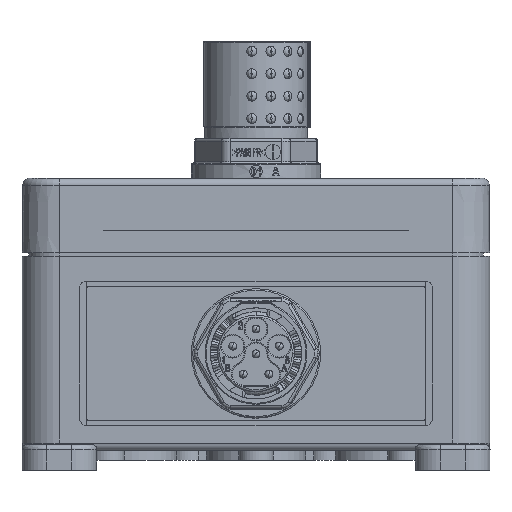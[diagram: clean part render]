
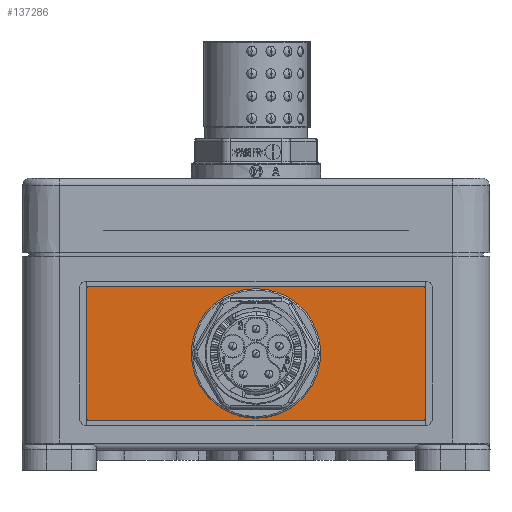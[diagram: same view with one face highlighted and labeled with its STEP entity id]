
A CAD part, front view. The second image highlights one B-rep face of the part: STEP entity #137286.
In plain terms, the highlighted planar face has unit normal (0, -1, 0).
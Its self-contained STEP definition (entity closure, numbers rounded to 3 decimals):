
#898 = EDGE_LOOP ( 'NONE', ( #31750, #93247, #28252, #119586, #124099, #131153, #49597, #32504 ) ) ;
#1482 = AXIS2_PLACEMENT_3D ( 'NONE', #101926, #105520, #165240 ) ;
#2060 = EDGE_CURVE ( 'NONE', #116039, #29001, #157896, .T. ) ;
#4006 = CARTESIAN_POINT ( 'NONE',  ( 33.5, -90., 8. ) ) ;
#8067 = CIRCLE ( 'NONE', #61209, 0.5 ) ;
#8109 = VERTEX_POINT ( 'NONE', #169908 ) ;
#13089 = VERTEX_POINT ( 'NONE', #4006 ) ;
#14322 = DIRECTION ( 'NONE',  ( 0., 1., 0. ) ) ;
#16944 = DIRECTION ( 'NONE',  ( 0., 1., 0. ) ) ;
#17930 = AXIS2_PLACEMENT_3D ( 'NONE', #161107, #117995, #177693 ) ;
#18874 = CARTESIAN_POINT ( 'NONE',  ( 33.5, -90., 34.5 ) ) ;
#23861 = VERTEX_POINT ( 'NONE', #59536 ) ;
#26523 = VERTEX_POINT ( 'NONE', #60774 ) ;
#28252 = ORIENTED_EDGE ( 'NONE', *, *, #166273, .F. ) ;
#29001 = VERTEX_POINT ( 'NONE', #106247 ) ;
#30203 = FACE_OUTER_BOUND ( 'NONE', #898, .T. ) ;
#31750 = ORIENTED_EDGE ( 'NONE', *, *, #73078, .F. ) ;
#32504 = ORIENTED_EDGE ( 'NONE', *, *, #113746, .F. ) ;
#32585 = DIRECTION ( 'NONE',  ( 1., 0., 0. ) ) ;
#43138 = VERTEX_POINT ( 'NONE', #61627 ) ;
#47320 = DIRECTION ( 'NONE',  ( 0., 1., 0. ) ) ;
#48547 = LINE ( 'NONE', #108202, #136846 ) ;
#49597 = ORIENTED_EDGE ( 'NONE', *, *, #117714, .F. ) ;
#51637 = VECTOR ( 'NONE', #57565, 1000. ) ;
#57565 = DIRECTION ( 'NONE',  ( -1., 0., 0. ) ) ;
#59536 = CARTESIAN_POINT ( 'NONE',  ( 33.5, -90., 35. ) ) ;
#60578 = DIRECTION ( 'NONE',  ( 0., 0., -1. ) ) ;
#60774 = CARTESIAN_POINT ( 'NONE',  ( -33.5, -90., 8. ) ) ;
#61209 = AXIS2_PLACEMENT_3D ( 'NONE', #18874, #16944, #122680 ) ;
#61362 = CARTESIAN_POINT ( 'NONE',  ( 0., -90., 21.5 ) ) ;
#61627 = CARTESIAN_POINT ( 'NONE',  ( -33.5, -90., 35. ) ) ;
#63195 = DIRECTION ( 'NONE',  ( 1., 0., 0. ) ) ;
#63416 = ORIENTED_EDGE ( 'NONE', *, *, #109944, .T. ) ;
#70265 = EDGE_CURVE ( 'NONE', #43138, #23861, #76887, .T. ) ;
#70826 = DIRECTION ( 'NONE',  ( 0., 1., 0. ) ) ;
#71025 = VERTEX_POINT ( 'NONE', #142426 ) ;
#72335 = DIRECTION ( 'NONE',  ( 0., -1., 0. ) ) ;
#72796 = CIRCLE ( 'NONE', #147868, 0.5 ) ;
#73078 = EDGE_CURVE ( 'NONE', #26523, #74999, #179890, .T. ) ;
#74999 = VERTEX_POINT ( 'NONE', #116396 ) ;
#76139 = CIRCLE ( 'NONE', #132291, 13. ) ;
#76887 = LINE ( 'NONE', #120945, #158631 ) ;
#90663 = DIRECTION ( 'NONE',  ( 0., 0., -1. ) ) ;
#93247 = ORIENTED_EDGE ( 'NONE', *, *, #171619, .F. ) ;
#93490 = DIRECTION ( 'NONE',  ( 0., 0., -1. ) ) ;
#98580 = AXIS2_PLACEMENT_3D ( 'NONE', #150061, #47320, #32585 ) ;
#101926 = CARTESIAN_POINT ( 'NONE',  ( 0., -90., 21.5 ) ) ;
#101950 = VECTOR ( 'NONE', #181701, 1000. ) ;
#104429 = CARTESIAN_POINT ( 'NONE',  ( 33.5, -90., 8. ) ) ;
#105520 = DIRECTION ( 'NONE',  ( 0., 1., 0. ) ) ;
#106247 = CARTESIAN_POINT ( 'NONE',  ( 13., -90., 21.5 ) ) ;
#108202 = CARTESIAN_POINT ( 'NONE',  ( 34., -90., 34.5 ) ) ;
#109944 = EDGE_CURVE ( 'NONE', #29001, #116039, #76139, .T. ) ;
#110870 = EDGE_LOOP ( 'NONE', ( #129105, #63416 ) ) ;
#112615 = EDGE_CURVE ( 'NONE', #23861, #71025, #8067, .T. ) ;
#113746 = EDGE_CURVE ( 'NONE', #74999, #154521, #133753, .T. ) ;
#116039 = VERTEX_POINT ( 'NONE', #121887 ) ;
#116396 = CARTESIAN_POINT ( 'NONE',  ( -34., -90., 8.5 ) ) ;
#117714 = EDGE_CURVE ( 'NONE', #154521, #43138, #130752, .T. ) ;
#117995 = DIRECTION ( 'NONE',  ( 0., 1., 0. ) ) ;
#118320 = CARTESIAN_POINT ( 'NONE',  ( -47., -90., 0. ) ) ;
#119586 = ORIENTED_EDGE ( 'NONE', *, *, #156108, .F. ) ;
#120945 = CARTESIAN_POINT ( 'NONE',  ( -33.5, -90., 35. ) ) ;
#121887 = CARTESIAN_POINT ( 'NONE',  ( -13., -90., 21.5 ) ) ;
#122680 = DIRECTION ( 'NONE',  ( 1., 0., 0. ) ) ;
#124099 = ORIENTED_EDGE ( 'NONE', *, *, #112615, .F. ) ;
#125754 = CARTESIAN_POINT ( 'NONE',  ( -34., -90., 34.5 ) ) ;
#129105 = ORIENTED_EDGE ( 'NONE', *, *, #2060, .T. ) ;
#130752 = CIRCLE ( 'NONE', #17930, 0.5 ) ;
#131153 = ORIENTED_EDGE ( 'NONE', *, *, #70265, .F. ) ;
#132291 = AXIS2_PLACEMENT_3D ( 'NONE', #61362, #14322, #90663 ) ;
#133753 = LINE ( 'NONE', #177829, #101950 ) ;
#136846 = VECTOR ( 'NONE', #93490, 1000. ) ;
#137286 = ADVANCED_FACE ( 'NONE', ( #176092, #30203 ), #178968, .T. ) ;
#142426 = CARTESIAN_POINT ( 'NONE',  ( 34., -90., 34.5 ) ) ;
#146597 = LINE ( 'NONE', #104429, #51637 ) ;
#147868 = AXIS2_PLACEMENT_3D ( 'NONE', #157023, #70826, #173614 ) ;
#150061 = CARTESIAN_POINT ( 'NONE',  ( -33.5, -90., 8.5 ) ) ;
#154521 = VERTEX_POINT ( 'NONE', #125754 ) ;
#156108 = EDGE_CURVE ( 'NONE', #71025, #8109, #48547, .T. ) ;
#157023 = CARTESIAN_POINT ( 'NONE',  ( 33.5, -90., 8.5 ) ) ;
#157896 = CIRCLE ( 'NONE', #1482, 13. ) ;
#158631 = VECTOR ( 'NONE', #63195, 1000. ) ;
#161107 = CARTESIAN_POINT ( 'NONE',  ( -33.5, -90., 34.5 ) ) ;
#163979 = AXIS2_PLACEMENT_3D ( 'NONE', #118320, #72335, #60578 ) ;
#165240 = DIRECTION ( 'NONE',  ( 0., 0., -1. ) ) ;
#166273 = EDGE_CURVE ( 'NONE', #8109, #13089, #72796, .T. ) ;
#169908 = CARTESIAN_POINT ( 'NONE',  ( 34., -90., 8.5 ) ) ;
#171619 = EDGE_CURVE ( 'NONE', #13089, #26523, #146597, .T. ) ;
#173614 = DIRECTION ( 'NONE',  ( 1., 0., 0. ) ) ;
#176092 = FACE_BOUND ( 'NONE', #110870, .T. ) ;
#177693 = DIRECTION ( 'NONE',  ( 1., 0., 0. ) ) ;
#177829 = CARTESIAN_POINT ( 'NONE',  ( -34., -90., 8.5 ) ) ;
#178968 = PLANE ( 'NONE',  #163979 ) ;
#179890 = CIRCLE ( 'NONE', #98580, 0.5 ) ;
#181701 = DIRECTION ( 'NONE',  ( 0., 0., 1. ) ) ;
